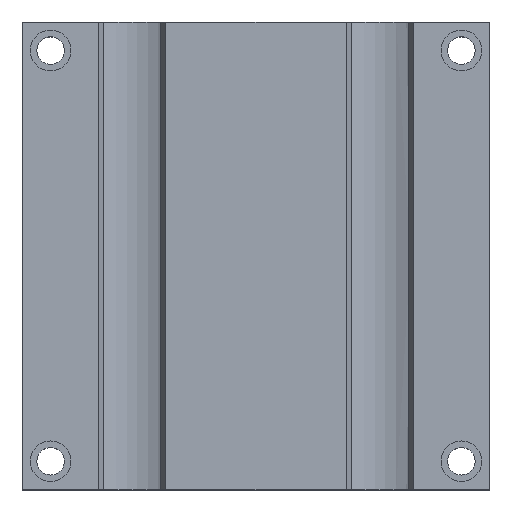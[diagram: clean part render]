
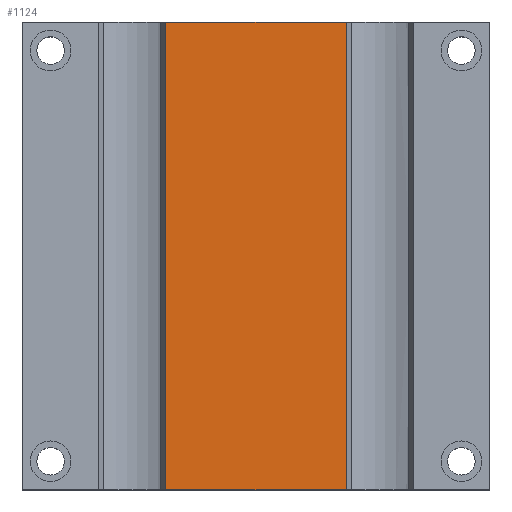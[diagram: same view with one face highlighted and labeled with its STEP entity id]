
A CAD part, top view. The second image highlights one B-rep face of the part: STEP entity #1124.
In plain terms, the highlighted planar face has unit normal (0, 0, 1).
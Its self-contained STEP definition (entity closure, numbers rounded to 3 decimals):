
#113 = DIRECTION ( 'NONE',  ( -1., 0., 0. ) ) ;
#199 = ORIENTED_EDGE ( 'NONE', *, *, #1882, .F. ) ;
#315 = DIRECTION ( 'NONE',  ( 1., 0., 0. ) ) ;
#353 = CARTESIAN_POINT ( 'NONE',  ( 44.492, -115., 38.5 ) ) ;
#476 = CARTESIAN_POINT ( 'NONE',  ( 44.492, -115., 38.5 ) ) ;
#603 = LINE ( 'NONE', #353, #1971 ) ;
#869 = VECTOR ( 'NONE', #113, 1000. ) ;
#900 = DIRECTION ( 'NONE',  ( 0., 1., 0. ) ) ;
#1021 = DIRECTION ( 'NONE',  ( 0., 0., 1. ) ) ;
#1065 = FACE_OUTER_BOUND ( 'NONE', #2648, .T. ) ;
#1068 = CARTESIAN_POINT ( 'NONE',  ( 44.492, 115., 38.5 ) ) ;
#1124 = ADVANCED_FACE ( 'NONE', ( #1065 ), #3003, .T. ) ;
#1311 = LINE ( 'NONE', #2050, #869 ) ;
#1385 = VECTOR ( 'NONE', #900, 1000. ) ;
#1446 = CARTESIAN_POINT ( 'NONE',  ( -115., -115., 38.5 ) ) ;
#1488 = ORIENTED_EDGE ( 'NONE', *, *, #2892, .T. ) ;
#1549 = VECTOR ( 'NONE', #315, 1000. ) ;
#1674 = ORIENTED_EDGE ( 'NONE', *, *, #2054, .T. ) ;
#1840 = EDGE_CURVE ( 'NONE', #2486, #1859, #1311, .T. ) ;
#1859 = VERTEX_POINT ( 'NONE', #3073 ) ;
#1882 = EDGE_CURVE ( 'NONE', #3069, #1859, #2120, .T. ) ;
#1919 = ORIENTED_EDGE ( 'NONE', *, *, #1840, .T. ) ;
#1971 = VECTOR ( 'NONE', #2997, 1000. ) ;
#2019 = AXIS2_PLACEMENT_3D ( 'NONE', #2203, #1021, #2443 ) ;
#2050 = CARTESIAN_POINT ( 'NONE',  ( -115., 115., 38.5 ) ) ;
#2054 = EDGE_CURVE ( 'NONE', #3069, #3065, #2700, .T. ) ;
#2120 = LINE ( 'NONE', #3053, #1385 ) ;
#2203 = CARTESIAN_POINT ( 'NONE',  ( 0., 0., 38.5 ) ) ;
#2443 = DIRECTION ( 'NONE',  ( 1., 0., 0. ) ) ;
#2486 = VERTEX_POINT ( 'NONE', #1068 ) ;
#2648 = EDGE_LOOP ( 'NONE', ( #1674, #1488, #1919, #199 ) ) ;
#2664 = CARTESIAN_POINT ( 'NONE',  ( -44.492, -115., 38.5 ) ) ;
#2700 = LINE ( 'NONE', #1446, #1549 ) ;
#2892 = EDGE_CURVE ( 'NONE', #3065, #2486, #603, .T. ) ;
#2997 = DIRECTION ( 'NONE',  ( 0., 1., 0. ) ) ;
#3003 = PLANE ( 'NONE',  #2019 ) ;
#3053 = CARTESIAN_POINT ( 'NONE',  ( -44.492, -115., 38.5 ) ) ;
#3065 = VERTEX_POINT ( 'NONE', #476 ) ;
#3069 = VERTEX_POINT ( 'NONE', #2664 ) ;
#3073 = CARTESIAN_POINT ( 'NONE',  ( -44.492, 115., 38.5 ) ) ;
